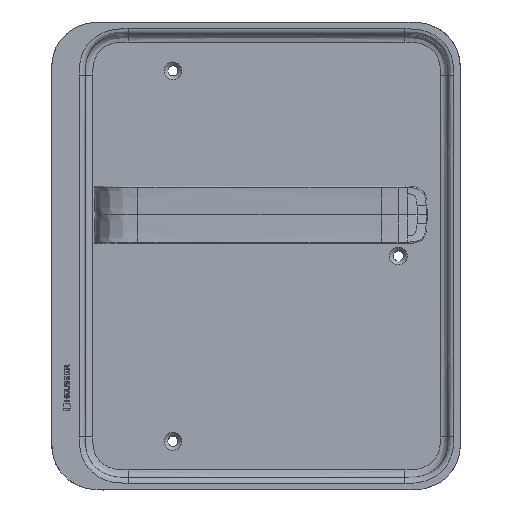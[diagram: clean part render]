
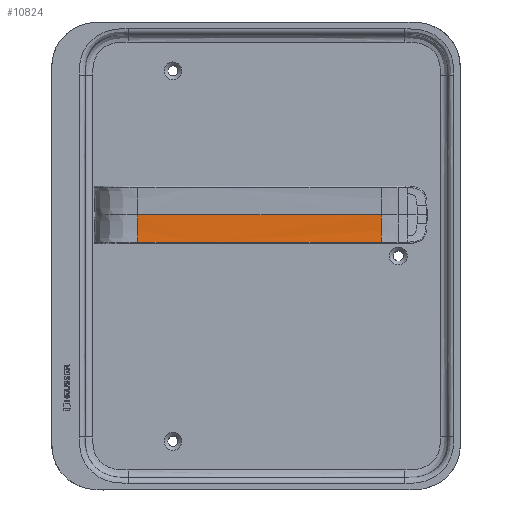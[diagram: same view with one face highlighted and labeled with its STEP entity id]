
A CAD part, top view. The second image highlights one B-rep face of the part: STEP entity #10824.
In plain terms, the highlighted free-form (B-spline) face has degree [1, 5] with [2, 6] control points.
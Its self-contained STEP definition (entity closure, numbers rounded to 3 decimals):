
#135=B_SPLINE_SURFACE_WITH_KNOTS('',1,5,((#16273,#16274,#16275,#16276,#16277,
#16278),(#16279,#16280,#16281,#16282,#16283,#16284)),.UNSPECIFIED.,.F.,
 .F.,.F.,(2,2),(6,6),(0.,1.),(0.,1.),.UNSPECIFIED.);
#437=B_SPLINE_CURVE_WITH_KNOTS('',5,(#16206,#16207,#16208,#16209,#16210,
#16211),.UNSPECIFIED.,.F.,.F.,(6,6),(0.,0.466),
 .UNSPECIFIED.);
#442=B_SPLINE_CURVE_WITH_KNOTS('',3,(#16287,#16288,#16289,#16290,#16291,
#16292,#16293,#16294,#16295,#16296),.UNSPECIFIED.,.F.,.F.,(4,3,3,4),(3.187,
8.761,12.402,12.747),.UNSPECIFIED.);
#443=B_SPLINE_CURVE_WITH_KNOTS('',5,(#16297,#16298,#16299,#16300,#16301,
#16302),.UNSPECIFIED.,.F.,.F.,(6,6),(0.,0.466),
 .UNSPECIFIED.);
#444=B_SPLINE_CURVE_WITH_KNOTS('',3,(#16303,#16304,#16305,#16306,#16307,
#16308,#16309,#16310,#16311,#16312,#16313,#16314,#16315,#16316,#16317,#16318,
#16319,#16320,#16321),.UNSPECIFIED.,.F.,.F.,(4,3,3,3,3,3,4),(0.,0.398,
0.557,0.796,0.913,1.195,3.187),
 .UNSPECIFIED.);
#1233=LINE('',#16272,#2116);
#2116=VECTOR('',#12327,10.);
#2898=FACE_OUTER_BOUND('',#3512,.T.);
#3512=EDGE_LOOP('',(#7569,#7570,#7571,#7572,#7573));
#4446=VERTEX_POINT('',#15993);
#4450=VERTEX_POINT('',#16138);
#4452=VERTEX_POINT('',#16232);
#4454=VERTEX_POINT('',#16285);
#4455=VERTEX_POINT('',#16286);
#5615=EDGE_CURVE('',#4450,#4446,#437,.T.);
#5620=EDGE_CURVE('',#4452,#4446,#1233,.T.);
#5621=EDGE_CURVE('',#4454,#4455,#442,.T.);
#5622=EDGE_CURVE('',#4455,#4452,#443,.T.);
#5623=EDGE_CURVE('',#4450,#4454,#444,.T.);
#7569=ORIENTED_EDGE('',*,*,#5621,.T.);
#7570=ORIENTED_EDGE('',*,*,#5622,.T.);
#7571=ORIENTED_EDGE('',*,*,#5620,.T.);
#7572=ORIENTED_EDGE('',*,*,#5615,.F.);
#7573=ORIENTED_EDGE('',*,*,#5623,.T.);
#10824=ADVANCED_FACE('',(#2898),#135,.F.);
#12327=DIRECTION('',(-1.,0.,-0.004));
#15993=CARTESIAN_POINT('',(-67.55,22.622,37.911));
#16138=CARTESIAN_POINT('',(-67.55,8.232,38.446));
#16206=CARTESIAN_POINT('Ctrl Pts',(-67.55,8.233,38.446));
#16207=CARTESIAN_POINT('Ctrl Pts',(-67.55,10.022,38.167));
#16208=CARTESIAN_POINT('Ctrl Pts',(-67.55,12.523,38.023));
#16209=CARTESIAN_POINT('Ctrl Pts',(-67.55,15.673,37.948));
#16210=CARTESIAN_POINT('Ctrl Pts',(-67.55,19.148,37.911));
#16211=CARTESIAN_POINT('Ctrl Pts',(-67.55,22.622,37.911));
#16232=CARTESIAN_POINT('',(59.923,22.622,38.458));
#16272=CARTESIAN_POINT('',(59.923,22.622,38.458));
#16273=CARTESIAN_POINT('Ctrl Pts',(-67.55,37.622,38.554));
#16274=CARTESIAN_POINT('Ctrl Pts',(-67.55,34.229,37.868));
#16275=CARTESIAN_POINT('Ctrl Pts',(-67.55,27.522,37.868));
#16276=CARTESIAN_POINT('Ctrl Pts',(-67.55,17.722,37.868));
#16277=CARTESIAN_POINT('Ctrl Pts',(-67.55,11.014,37.868));
#16278=CARTESIAN_POINT('Ctrl Pts',(-67.55,7.622,38.554));
#16279=CARTESIAN_POINT('Ctrl Pts',(59.948,37.622,39.101));
#16280=CARTESIAN_POINT('Ctrl Pts',(59.948,34.229,38.415));
#16281=CARTESIAN_POINT('Ctrl Pts',(59.948,27.522,38.415));
#16282=CARTESIAN_POINT('Ctrl Pts',(59.948,17.722,38.415));
#16283=CARTESIAN_POINT('Ctrl Pts',(59.948,11.014,38.415));
#16284=CARTESIAN_POINT('Ctrl Pts',(59.948,7.622,39.101));
#16285=CARTESIAN_POINT('',(-35.682,8.233,38.582));
#16286=CARTESIAN_POINT('',(59.923,8.233,38.992));
#16287=CARTESIAN_POINT('Ctrl Pts',(-35.682,8.233,38.582));
#16288=CARTESIAN_POINT('Ctrl Pts',(-17.103,8.233,38.662));
#16289=CARTESIAN_POINT('Ctrl Pts',(1.491,8.233,38.742));
#16290=CARTESIAN_POINT('Ctrl Pts',(20.066,8.233,38.822));
#16291=CARTESIAN_POINT('Ctrl Pts',(32.2,8.233,38.874));
#16292=CARTESIAN_POINT('Ctrl Pts',(44.334,8.232,38.924));
#16293=CARTESIAN_POINT('Ctrl Pts',(56.468,8.233,38.978));
#16294=CARTESIAN_POINT('Ctrl Pts',(57.62,8.233,38.983));
#16295=CARTESIAN_POINT('Ctrl Pts',(58.772,8.233,38.988));
#16296=CARTESIAN_POINT('Ctrl Pts',(59.923,8.233,38.992));
#16297=CARTESIAN_POINT('Ctrl Pts',(59.923,8.233,38.992));
#16298=CARTESIAN_POINT('Ctrl Pts',(59.923,10.022,38.714));
#16299=CARTESIAN_POINT('Ctrl Pts',(59.923,12.523,38.57));
#16300=CARTESIAN_POINT('Ctrl Pts',(59.923,15.673,38.495));
#16301=CARTESIAN_POINT('Ctrl Pts',(59.923,19.147,38.458));
#16302=CARTESIAN_POINT('Ctrl Pts',(59.923,22.622,38.458));
#16303=CARTESIAN_POINT('Ctrl Pts',(-67.55,8.232,38.446));
#16304=CARTESIAN_POINT('Ctrl Pts',(-66.222,8.232,38.451));
#16305=CARTESIAN_POINT('Ctrl Pts',(-64.894,8.233,38.457));
#16306=CARTESIAN_POINT('Ctrl Pts',(-63.566,8.233,38.463));
#16307=CARTESIAN_POINT('Ctrl Pts',(-63.017,8.233,38.465));
#16308=CARTESIAN_POINT('Ctrl Pts',(-62.467,8.233,38.468));
#16309=CARTESIAN_POINT('Ctrl Pts',(-61.918,8.233,38.47));
#16310=CARTESIAN_POINT('Ctrl Pts',(-61.141,8.233,38.473));
#16311=CARTESIAN_POINT('Ctrl Pts',(-60.364,8.233,38.477));
#16312=CARTESIAN_POINT('Ctrl Pts',(-59.586,8.233,38.48));
#16313=CARTESIAN_POINT('Ctrl Pts',(-59.175,8.233,38.482));
#16314=CARTESIAN_POINT('Ctrl Pts',(-58.764,8.233,38.483));
#16315=CARTESIAN_POINT('Ctrl Pts',(-58.353,8.233,38.485));
#16316=CARTESIAN_POINT('Ctrl Pts',(-57.436,8.233,38.489));
#16317=CARTESIAN_POINT('Ctrl Pts',(-56.519,8.233,38.493));
#16318=CARTESIAN_POINT('Ctrl Pts',(-55.602,8.233,38.497));
#16319=CARTESIAN_POINT('Ctrl Pts',(-48.962,8.232,38.526));
#16320=CARTESIAN_POINT('Ctrl Pts',(-42.322,8.233,38.554));
#16321=CARTESIAN_POINT('Ctrl Pts',(-35.682,8.233,38.582));
